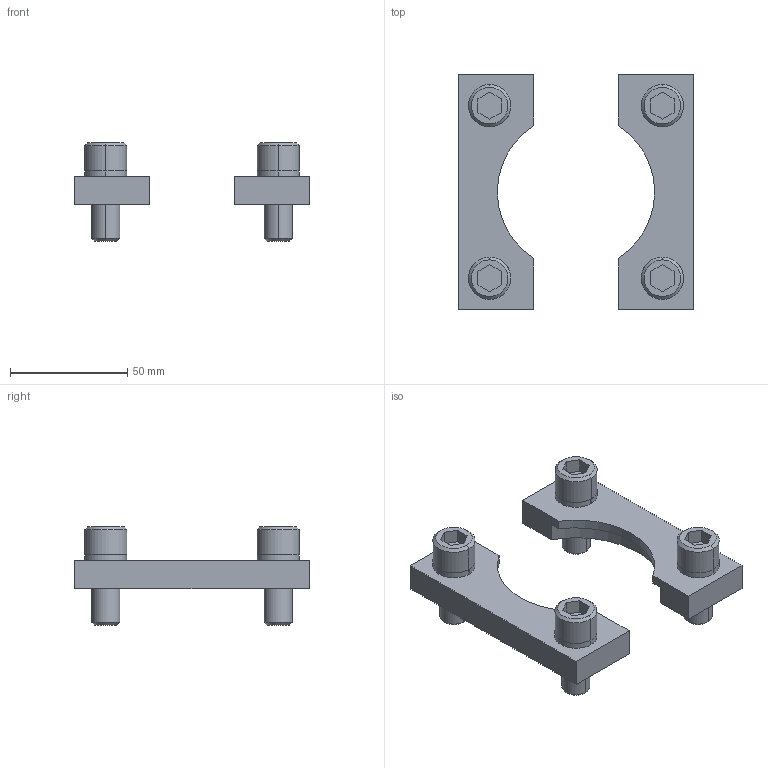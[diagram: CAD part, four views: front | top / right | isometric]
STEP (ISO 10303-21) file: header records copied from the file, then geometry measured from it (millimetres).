
FILE_DESCRIPTION(/* description */ (''),/* implementation_level */ '2;1');
FILE_NAME(/* name */ '3d_sf75_05187_r00.stp',/* time_stamp */ '2011-01-10T14:11:14+09:00',/* author */ ('MISUMI'),/* organization */ (''),/* preprocessor_version */ 'ST-DEVELOPER v11',/* originating_system */ 'UGS - NX 5.0',/* authorisation */ '');
FILE_SCHEMA (('CONFIG_CONTROL_DESIGN'));
Length unit declared in the file: millimetre
Products named in the file (1): 3d_sf75_05187_r00
Bounding box: 100 x 100 x 42 mm (x, y, z)
Volume: 74683.7 mm3; surface area: 29782 mm2
Topology: 10 solids, 10 shells, 136 faces, 304 edges, 196 vertices
Faces by surface type: plane 76, cylinder 44, cone 16
Entity records: 3856 total; most frequent: DIRECTION 682, CARTESIAN_POINT 637, ORIENTED_EDGE 608, EDGE_CURVE 304, AXIS2_PLACEMENT_3D 241, LINE 200, VECTOR 200, VERTEX_POINT 196
